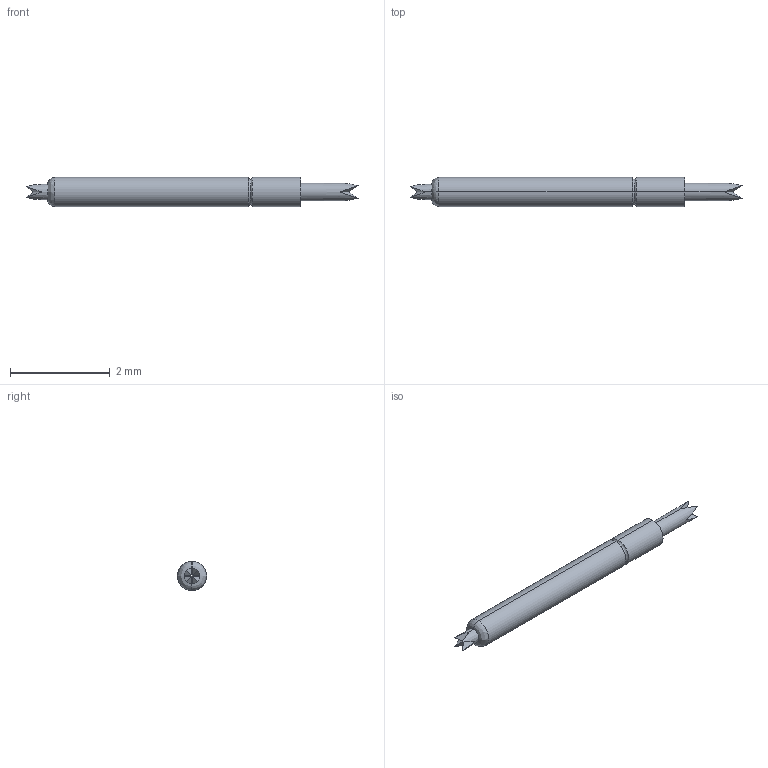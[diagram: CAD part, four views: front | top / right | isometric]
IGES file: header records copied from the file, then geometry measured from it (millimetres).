
Start section: SolidWorks IGES file using analytic representation for surfaces
Global section: file name: Z:\probe solid model mockups\Solidworks models\IGES Files\CSP8-20 IGES files\CSP8-20LL RECD.IGS; native system: SolidWorks 2006 by SolidWorks Corporation; preprocessor: SolidWorks 2006 by SolidWorks Corporation; author: tsakatani; date: 080108.153052; units: inch
Bounding box: 6.65 x 0.58 x 0.58 mm (x, y, z)
Surface area: 11.5 mm2 (no closed solid volume)
Topology: 0 solids, 0 shells, 31 faces, 180 edges, 180 vertices
Faces by surface type: bspline 23, revolution 8
